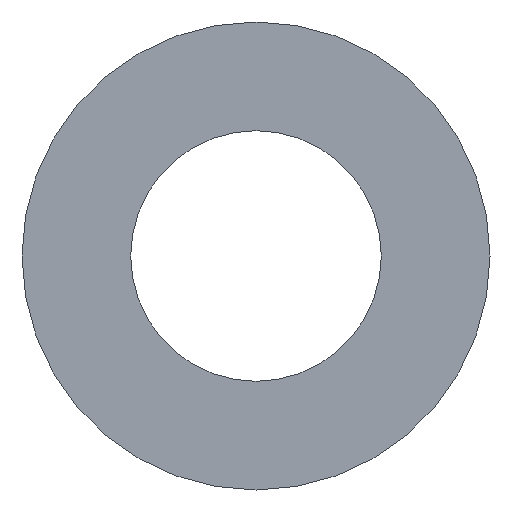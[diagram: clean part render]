
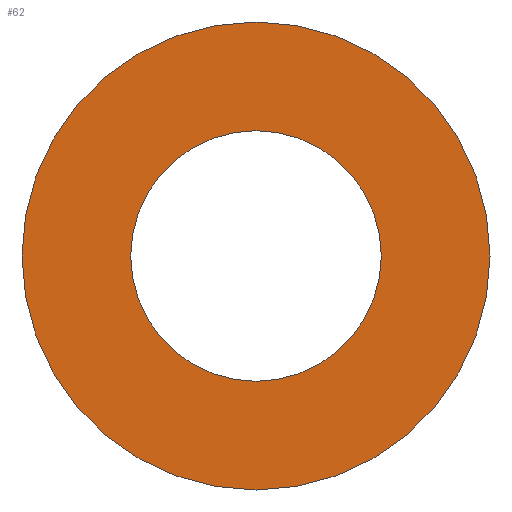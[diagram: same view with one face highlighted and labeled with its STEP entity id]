
A CAD part, front view. The second image highlights one B-rep face of the part: STEP entity #62.
In plain terms, the highlighted planar face has unit normal (0, -1, 0).
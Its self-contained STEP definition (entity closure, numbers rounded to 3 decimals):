
#20=PLANE('',#83);
#26=ORIENTED_EDGE('',*,*,#30,.T.);
#27=ORIENTED_EDGE('',*,*,#32,.F.);
#30=EDGE_CURVE('',#34,#34,#38,.T.);
#32=EDGE_CURVE('',#36,#36,#40,.T.);
#34=VERTEX_POINT('',#106);
#36=VERTEX_POINT('',#111);
#38=CIRCLE('',#78,34.);
#40=CIRCLE('',#81,63.5);
#46=EDGE_LOOP('',(#26));
#47=EDGE_LOOP('',(#27));
#54=FACE_BOUND('',#46,.T.);
#55=FACE_BOUND('',#47,.T.);
#62=ADVANCED_FACE('',(#54,#55),#20,.F.);
#78=AXIS2_PLACEMENT_3D('',#105,#89,#90);
#81=AXIS2_PLACEMENT_3D('',#110,#95,#96);
#83=AXIS2_PLACEMENT_3D('',#114,#99,#100);
#89=DIRECTION('',(0.,1.,0.));
#90=DIRECTION('',(1.,0.,0.));
#95=DIRECTION('',(0.,1.,0.));
#96=DIRECTION('',(1.,0.,0.));
#99=DIRECTION('',(0.,1.,0.));
#100=DIRECTION('',(0.,0.,1.));
#105=CARTESIAN_POINT('',(0.,-1.5,0.));
#106=CARTESIAN_POINT('',(34.,-1.5,0.));
#110=CARTESIAN_POINT('',(0.,-1.5,0.));
#111=CARTESIAN_POINT('',(63.5,-1.5,0.));
#114=CARTESIAN_POINT('',(0.,-1.5,0.));
